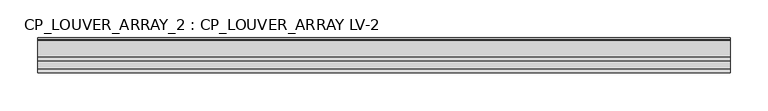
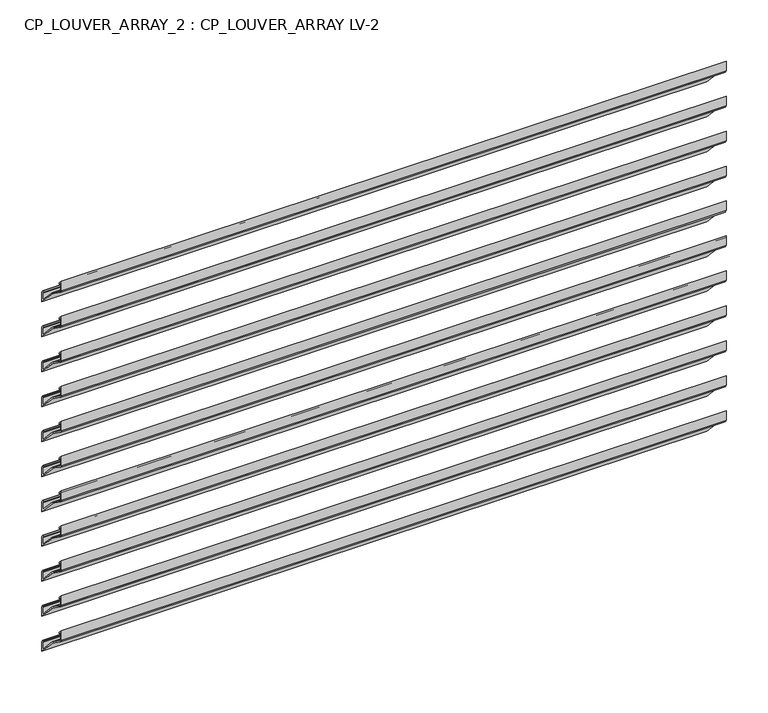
"""IFC4 building model written with IfcOpenShell, lengths in millimetres: plate geometry, CP_LOUVER_ARRAY_2 : CP_LOUVER_ARRAY LV-2."""

import ifcopenshell
import ifcopenshell.guid

model = None  # the IFC model being written
_history = None  # IfcOwnerHistory: only IFC2X3 demands one
_inside = {}  # id of a spatial element -> (the spatial element, [elements in it])
_under = {}  # id of a project, library or spatial element -> (it, [spatial elements below it])
_declared = {}  # id of a project -> (the project, [libraries it declares])
_typed = {}  # id of a type object -> (the type object, [elements of that type])
_made_of = {}  # id of a material, layer set ... -> (it, [elements and type objects made of it])


def new_model(schema):
    """Start an empty IFC model of exactly this schema.

    Asked for "IFC4X3", IfcOpenShell would pick the latest addendum, in which some entities
    have other attributes; the version numbers below select the first issue.
    IFC2X3 requires an IfcOwnerHistory on every rooted entity: one is made here for all.
    """
    global model, _history
    if schema == "IFC4X3":
        model = ifcopenshell.file(schema_version=(4, 3, 0, 0))
    else:
        model = ifcopenshell.file(schema=schema)
    _inside.clear()
    _under.clear()
    _declared.clear()
    _typed.clear()
    _made_of.clear()
    _history = None
    if model.schema == "IFC2X3":
        org = make("IfcOrganization", Name="unknown")
        user = make(
            "IfcPersonAndOrganization",
            ThePerson=make("IfcPerson", FamilyName="unknown"),
            TheOrganization=org,
        )
        app = make(
            "IfcApplication",
            ApplicationDeveloper=org,
            Version="unknown",
            ApplicationFullName="unknown",
            ApplicationIdentifier="unknown",
        )
        _history = make(
            "IfcOwnerHistory",
            OwningUser=user,
            OwningApplication=app,
            ChangeAction="ADDED",
            CreationDate=0,
        )
    return model


def make(cls, **values):
    """One entity of the class cls with the attributes given. An attribute that is None is left unset."""
    return model.create_entity(
        cls, **{name: value for name, value in values.items() if value is not None}
    )


def rooted(cls, **values):
    """An entity with a GlobalId (a new one), such as an element, a storey or a relation."""
    return make(cls, GlobalId=ifcopenshell.guid.new(), OwnerHistory=_history, **values)


def si_unit(unit_type, name, prefix=None):
    """IfcSIUnit, for example si_unit("LENGTHUNIT", "METRE", prefix="MILLI")."""
    return make("IfcSIUnit", UnitType=unit_type, Prefix=prefix, Name=name)


def assignment(units):
    """IfcUnitAssignment: the units of a project."""
    return None if units is None else make("IfcUnitAssignment", Units=units)


def point(xyz):
    """IfcCartesianPoint."""
    return None if xyz is None else make("IfcCartesianPoint", Coordinates=xyz)


def direction(xyz):
    """IfcDirection."""
    return None if xyz is None else make("IfcDirection", DirectionRatios=xyz)


def frame(location, z_axis=None, x_axis=None):
    """IfcAxis2Placement3D, a coordinate frame: its origin and axes. An axis left out is left unset."""
    return make(
        "IfcAxis2Placement3D",
        Location=point(location),
        Axis=direction(z_axis),
        RefDirection=direction(x_axis),
    )


def origin():
    """The frame at (0, 0, 0) with its axes left unset."""
    return frame((0.0, 0.0, 0.0))


def place(relative_to, where):
    """IfcLocalPlacement: puts the frame where relative to a parent placement (None: the world)."""
    return make(
        "IfcLocalPlacement", PlacementRelTo=relative_to, RelativePlacement=where
    )


def context(
    kind, dimensions, precision=None, world=None, true_north=None, identifier=None
):
    """IfcGeometricRepresentationContext, for example the 3D "Model" context."""
    return make(
        "IfcGeometricRepresentationContext",
        ContextIdentifier=identifier,
        ContextType=kind,
        CoordinateSpaceDimension=dimensions,
        Precision=precision,
        WorldCoordinateSystem=world,
        TrueNorth=true_north,
    )


def project(units=None, contexts=None):
    """IfcProject with its units and contexts."""
    return rooted(
        "IfcProject",
        Name="project",
        RepresentationContexts=contexts,
        UnitsInContext=assignment(units),
    )


def spatial(cls, under=None, at=None, **own):
    """A site, building, storey or space (cls), placed at a placement, below another one or the project."""
    s = rooted(cls, ObjectPlacement=at, **own)
    if under is not None:
        _under.setdefault(under.id(), (under, []))[1].append(s)
    return s


def faces_of(points, faces, orient=None, outer=None):
    """IfcFace entities. A face is a list of loops; a loop is a list of indices into points, from 0.

    orient and outer hold one flag for each loop. By default every Orientation is true, the
    first loop of a face is its IfcFaceOuterBound and the others are IfcFaceBound.
    """
    made = []
    for i, loops in enumerate(faces):
        bounds = []
        for j, loop in enumerate(loops):
            is_outer = j == 0 if outer is None else outer[i][j]
            bounds.append(
                make(
                    "IfcFaceOuterBound" if is_outer else "IfcFaceBound",
                    Bound=make("IfcPolyLoop", Polygon=[points[k] for k in loop]),
                    Orientation=True if orient is None else orient[i][j],
                )
            )
        made.append(make("IfcFace", Bounds=bounds))
    return made


def faceted_brep(points, faces, orient=None, outer=None, voids=None):
    """IfcFacetedBrep: a solid bounded by flat faces; with voids (closed shells), ...WithVoids."""
    shared = [point(p) for p in points]
    hull = make("IfcClosedShell", CfsFaces=faces_of(shared, faces, orient, outer))
    if voids is None:
        return make("IfcFacetedBrep", Outer=hull)
    return make(
        "IfcFacetedBrepWithVoids",
        Outer=hull,
        Voids=[
            make(cls, CfsFaces=faces_of(shared, fs, o, b)) for cls, fs, o, b in voids
        ],
    )


def shape(context_of_items, identifier, shape_type, items):
    """IfcShapeRepresentation: the items that make up one representation, for example the "Body"."""
    return make(
        "IfcShapeRepresentation",
        ContextOfItems=context_of_items,
        RepresentationIdentifier=identifier,
        RepresentationType=shape_type,
        Items=items,
    )


def source(mapping_origin, context_of_items, identifier, shape_type, items):
    """IfcRepresentationMap: a shape defined once, which mapped items show again and again."""
    return make(
        "IfcRepresentationMap",
        MappingOrigin=mapping_origin,
        MappedRepresentation=shape(context_of_items, identifier, shape_type, items),
    )


def transform(
    local_origin,
    x_axis=None,
    y_axis=None,
    z_axis=None,
    scale=None,
    scale2=None,
    scale3=None,
    uniform=True,
):
    """IfcCartesianTransformationOperator3D, or its non-uniform kind. x_axis, y_axis, z_axis: its Axis1, 2, 3."""
    if uniform:
        return make(
            "IfcCartesianTransformationOperator3D",
            Axis1=direction(x_axis),
            Axis2=direction(y_axis),
            LocalOrigin=point(local_origin),
            Scale=scale,
            Axis3=direction(z_axis),
        )
    return make(
        "IfcCartesianTransformationOperator3DnonUniform",
        Axis1=direction(x_axis),
        Axis2=direction(y_axis),
        LocalOrigin=point(local_origin),
        Scale=scale,
        Axis3=direction(z_axis),
        Scale2=scale2,
        Scale3=scale3,
    )


def mapped(mapping_source, mapping_target):
    """IfcMappedItem: shows the shape of a source again, moved by a transform."""
    return make(
        "IfcMappedItem", MappingSource=mapping_source, MappingTarget=mapping_target
    )


def made_of(thing, what):
    """Note that an element or type object is made of a material, layer set ...; save() writes the relation."""
    if what is not None:
        _made_of.setdefault(what.id(), (what, []))[1].append(thing)
    return thing


def element(
    cls,
    number,
    at=None,
    inside=None,
    cuts=None,
    type_object=None,
    material=None,
    context=None,
    identifier="Body",
    shape_type=None,
    held_by="IfcProductDefinitionShape",
    body=None,
    shapes=None,
    **own,
):
    """One element of the class cls, such as IfcWall. Its Tag is "e" and its number.

    at: its placement. inside: the storey or other place that contains it. cuts: it is an
    opening in that element (IfcRelVoidsElement). A single representation is given by context,
    identifier, shape_type and body (its items); several are given by shapes. held_by: the class
    of the entity that holds the representations. save() writes the other relations.
    """
    e = rooted(cls, Tag="e%d" % number, ObjectPlacement=at, **own)
    if body is not None:
        shapes = [shape(context, identifier, shape_type, body)]
    if shapes is not None:
        e.Representation = make(held_by, Representations=shapes)
    if inside is not None:
        _inside.setdefault(inside.id(), (inside, []))[1].append(e)
    if cuts is not None:
        rooted(
            "IfcRelVoidsElement", RelatingBuildingElement=cuts, RelatedOpeningElement=e
        )
    if type_object is not None:
        _typed.setdefault(type_object.id(), (type_object, []))[1].append(e)
    return made_of(e, material)


def aggregate(whole, parts):
    """IfcRelAggregates: a whole, such as a stair, and the parts it consists of."""
    return rooted("IfcRelAggregates", RelatingObject=whole, RelatedObjects=parts)


def save(model, path):
    """Write the relations noted so far, then the file.

    IfcRelAggregates (storeys below a building ...), IfcRelContainedInSpatialStructure (elements
    in a storey), IfcRelDefinesByType, IfcRelAssociatesMaterial and IfcRelDeclares: one each for
    every whole, place, type object, material and project.
    """
    for whole, parts in _under.values():
        aggregate(whole, parts)
    for where, things in _inside.values():
        rooted(
            "IfcRelContainedInSpatialStructure",
            RelatedElements=things,
            RelatingStructure=where,
        )
    for kind, things in _typed.values():
        rooted("IfcRelDefinesByType", RelatedObjects=things, RelatingType=kind)
    for what, things in _made_of.values():
        rooted("IfcRelAssociatesMaterial", RelatedObjects=things, RelatingMaterial=what)
    for by, libraries in _declared.values():
        rooted("IfcRelDeclares", RelatingContext=by, RelatedDefinitions=libraries)
    model.write(path)


def cp_louver_array_2_cp_louver_array_lv_2_bdcb4c62(model_context):
    return source(origin(), model_context, "Body", "Brep", [
        faceted_brep([(457.2, -96.3393096, 549.1190525), (457.2, -69.85, 520.7127457), (457.2, -69.85, 534.5844296), (457.2, -71.4632993, 537.7754075), (457.2, -73.025, 538.925084), (457.2, -73.025, 537.0326554), (457.2, -71.374, 534.5844296), (457.2, -71.374, 524.5816451), (457.2, -94.5749864, 549.4506311), (457.2, -99.9681804, 553.3028259), (457.2, -113.6250477, 562.9600681), (457.2, -114.6556, 564.9509873), (457.2, -114.6556, 574.9060452), (457.2, -111.4806, 571.5012746), (457.2, -111.4806, 573.735884), (457.2, -116.1796, 578.7749446), (457.2, -116.1796, 564.9509873), (457.2, -114.5049525, 561.7157436), (457.2, -100.8480853, 552.0585014), (-457.2, -96.3393096, 549.1190525), (-457.2, -100.8480853, 552.0585014), (-457.2, -114.5049525, 561.7157436), (-457.2, -116.1796, 564.9509873), (-457.2, -116.1796, 578.7749446), (-457.2, -111.4806, 573.735884), (-457.2, -111.4806, 571.5012746), (-457.2, -114.6556, 574.9060452), (-457.2, -114.6556, 564.9509873), (-457.2, -113.6250477, 562.9600681), (-457.2, -99.9681804, 553.3028259), (-457.2, -94.5749864, 549.4506311), (-457.2, -71.3542993, 524.6000536), (-457.2, -71.374, 534.5844296), (-457.2, -73.025, 537.0326554), (-457.2, -73.025, 538.925084), (-457.2, -71.4632993, 537.7754075), (-457.2, -69.85, 534.5844296), (-457.2, -69.85, 520.7127457)], [[[0, 1, 2, 3, 4, 5, 6, 7, 8, 9, 10, 11, 12, 13, 14, 15, 16, 17, 18]], [[19, 20, 21, 22, 23, 24, 25, 26, 27, 28, 29, 30, 31, 32, 33, 34, 35, 36, 37]], [[1, 0, 19, 37]], [[2, 1, 37, 36]], [[3, 2, 36, 35]], [[4, 3, 35, 34]], [[5, 4, 34, 33]], [[6, 5, 33, 32]], [[7, 6, 32, 31]], [[7, 31, 30, 8]], [[9, 8, 30, 29]], [[10, 9, 29, 28]], [[11, 10, 28, 27]], [[12, 11, 27, 26]], [[13, 12, 26, 25]], [[14, 13, 25, 24]], [[15, 14, 24, 23]], [[16, 15, 23, 22]], [[17, 16, 22, 21]], [[18, 17, 21, 20]], [[0, 18, 20, 19]]]),
        faceted_brep([(457.2, -96.3393096, 498.3177779), (457.2, -69.85, 469.9114711), (457.2, -69.85, 483.7831551), (457.2, -71.4632993, 486.9741329), (457.2, -73.025, 488.1238094), (457.2, -73.025, 486.2313808), (457.2, -71.374, 483.7831551), (457.2, -71.374, 473.7803705), (457.2, -94.5749864, 498.6493565), (457.2, -99.9681804, 502.5015513), (457.2, -113.6250477, 512.1587935), (457.2, -114.6556, 514.1497128), (457.2, -114.6556, 524.1047707), (457.2, -111.4806, 520.7), (457.2, -111.4806, 522.9346095), (457.2, -116.1796, 527.97367), (457.2, -116.1796, 514.1497128), (457.2, -114.5049525, 510.914469), (457.2, -100.8480853, 501.2572268), (-457.2, -96.3393096, 498.3177779), (-457.2, -100.8480853, 501.2572268), (-457.2, -114.5049525, 510.914469), (-457.2, -116.1796, 514.1497128), (-457.2, -116.1796, 527.97367), (-457.2, -111.4806, 522.9346095), (-457.2, -111.4806, 520.7), (-457.2, -114.6556, 524.1047707), (-457.2, -114.6556, 514.1497128), (-457.2, -113.6250477, 512.1587935), (-457.2, -99.9681804, 502.5015513), (-457.2, -94.5749864, 498.6493565), (-457.2, -71.3542993, 473.798779), (-457.2, -71.374, 483.7831551), (-457.2, -73.025, 486.2313808), (-457.2, -73.025, 488.1238094), (-457.2, -71.4632993, 486.9741329), (-457.2, -69.85, 483.7831551), (-457.2, -69.85, 469.9114711)], [[[0, 1, 2, 3, 4, 5, 6, 7, 8, 9, 10, 11, 12, 13, 14, 15, 16, 17, 18]], [[19, 20, 21, 22, 23, 24, 25, 26, 27, 28, 29, 30, 31, 32, 33, 34, 35, 36, 37]], [[1, 0, 19, 37]], [[2, 1, 37, 36]], [[3, 2, 36, 35]], [[4, 3, 35, 34]], [[5, 4, 34, 33]], [[6, 5, 33, 32]], [[7, 6, 32, 31]], [[7, 31, 30, 8]], [[9, 8, 30, 29]], [[10, 9, 29, 28]], [[11, 10, 28, 27]], [[12, 11, 27, 26]], [[13, 12, 26, 25]], [[14, 13, 25, 24]], [[15, 14, 24, 23]], [[16, 15, 23, 22]], [[17, 16, 22, 21]], [[18, 17, 21, 20]], [[0, 18, 20, 19]]]),
        faceted_brep([(457.2, -96.3393096, 447.5165033), (457.2, -69.85, 419.1101965), (457.2, -69.85, 432.9818805), (457.2, -71.4632993, 436.1728583), (457.2, -73.025, 437.3225348), (457.2, -73.025, 435.4301063), (457.2, -71.374, 432.9818805), (457.2, -71.374, 422.9790959), (457.2, -94.5749864, 447.8480819), (457.2, -99.9681804, 451.7002768), (457.2, -113.6250477, 461.357519), (457.2, -114.6556, 463.3484382), (457.2, -114.6556, 473.3034961), (457.2, -111.4806, 469.8987254), (457.2, -111.4806, 472.1333349), (457.2, -116.1796, 477.1723955), (457.2, -116.1796, 463.3484382), (457.2, -114.5049525, 460.1131944), (457.2, -100.8480853, 450.4559523), (-457.2, -96.3393096, 447.5165033), (-457.2, -100.8480853, 450.4559523), (-457.2, -114.5049525, 460.1131944), (-457.2, -116.1796, 463.3484382), (-457.2, -116.1796, 477.1723955), (-457.2, -111.4806, 472.1333349), (-457.2, -111.4806, 469.8987254), (-457.2, -114.6556, 473.3034961), (-457.2, -114.6556, 463.3484382), (-457.2, -113.6250477, 461.357519), (-457.2, -99.9681804, 451.7002768), (-457.2, -94.5749864, 447.8480819), (-457.2, -71.3542993, 422.9975045), (-457.2, -71.374, 432.9818805), (-457.2, -73.025, 435.4301063), (-457.2, -73.025, 437.3225348), (-457.2, -71.4632993, 436.1728583), (-457.2, -69.85, 432.9818805), (-457.2, -69.85, 419.1101965)], [[[0, 1, 2, 3, 4, 5, 6, 7, 8, 9, 10, 11, 12, 13, 14, 15, 16, 17, 18]], [[19, 20, 21, 22, 23, 24, 25, 26, 27, 28, 29, 30, 31, 32, 33, 34, 35, 36, 37]], [[1, 0, 19, 37]], [[2, 1, 37, 36]], [[3, 2, 36, 35]], [[4, 3, 35, 34]], [[5, 4, 34, 33]], [[6, 5, 33, 32]], [[7, 6, 32, 31]], [[7, 31, 30, 8]], [[9, 8, 30, 29]], [[10, 9, 29, 28]], [[11, 10, 28, 27]], [[12, 11, 27, 26]], [[13, 12, 26, 25]], [[14, 13, 25, 24]], [[15, 14, 24, 23]], [[16, 15, 23, 22]], [[17, 16, 22, 21]], [[18, 17, 21, 20]], [[0, 18, 20, 19]]]),
        faceted_brep([(457.2, -96.3393096, 396.7152288), (457.2, -69.85, 368.308922), (457.2, -69.85, 382.1806059), (457.2, -71.4632993, 385.3715838), (457.2, -73.025, 386.5212603), (457.2, -73.025, 384.6288317), (457.2, -71.374, 382.1806059), (457.2, -71.374, 372.1778214), (457.2, -94.5749864, 397.0468074), (457.2, -99.9681804, 400.8990022), (457.2, -113.6250477, 410.5562444), (457.2, -114.6556, 412.5471636), (457.2, -114.6556, 422.5022215), (457.2, -111.4806, 419.0974509), (457.2, -111.4806, 421.3320603), (457.2, -116.1796, 426.3711209), (457.2, -116.1796, 412.5471636), (457.2, -114.5049525, 409.3119199), (457.2, -100.8480853, 399.6546777), (-457.2, -96.3393096, 396.7152288), (-457.2, -100.8480853, 399.6546777), (-457.2, -114.5049525, 409.3119199), (-457.2, -116.1796, 412.5471636), (-457.2, -116.1796, 426.3711209), (-457.2, -111.4806, 421.3320603), (-457.2, -111.4806, 419.0974509), (-457.2, -114.6556, 422.5022215), (-457.2, -114.6556, 412.5471636), (-457.2, -113.6250477, 410.5562444), (-457.2, -99.9681804, 400.8990022), (-457.2, -94.5749864, 397.0468074), (-457.2, -71.3542993, 372.1962299), (-457.2, -71.374, 382.1806059), (-457.2, -73.025, 384.6288317), (-457.2, -73.025, 386.5212603), (-457.2, -71.4632993, 385.3715838), (-457.2, -69.85, 382.1806059), (-457.2, -69.85, 368.308922)], [[[0, 1, 2, 3, 4, 5, 6, 7, 8, 9, 10, 11, 12, 13, 14, 15, 16, 17, 18]], [[19, 20, 21, 22, 23, 24, 25, 26, 27, 28, 29, 30, 31, 32, 33, 34, 35, 36, 37]], [[1, 0, 19, 37]], [[2, 1, 37, 36]], [[3, 2, 36, 35]], [[4, 3, 35, 34]], [[5, 4, 34, 33]], [[6, 5, 33, 32]], [[7, 6, 32, 31]], [[7, 31, 30, 8]], [[9, 8, 30, 29]], [[10, 9, 29, 28]], [[11, 10, 28, 27]], [[12, 11, 27, 26]], [[13, 12, 26, 25]], [[14, 13, 25, 24]], [[15, 14, 24, 23]], [[16, 15, 23, 22]], [[17, 16, 22, 21]], [[18, 17, 21, 20]], [[0, 18, 20, 19]]]),
        faceted_brep([(457.2, -96.3393096, 345.9139542), (457.2, -69.85, 317.5076474), (457.2, -69.85, 331.3793314), (457.2, -71.4632993, 334.5703092), (457.2, -73.025, 335.7199857), (457.2, -73.025, 333.8275571), (457.2, -71.374, 331.3793314), (457.2, -71.374, 321.3765468), (457.2, -94.5749864, 346.2455328), (457.2, -99.9681804, 350.0977276), (457.2, -113.6250477, 359.7549698), (457.2, -114.6556, 361.7458891), (457.2, -114.6556, 371.7009469), (457.2, -111.4806, 368.2961763), (457.2, -111.4806, 370.5307858), (457.2, -116.1796, 375.5698463), (457.2, -116.1796, 361.7458891), (457.2, -114.5049525, 358.5106453), (457.2, -100.8480853, 348.8534031), (-457.2, -96.3393096, 345.9139542), (-457.2, -100.8480853, 348.8534031), (-457.2, -114.5049525, 358.5106453), (-457.2, -116.1796, 361.7458891), (-457.2, -116.1796, 375.5698463), (-457.2, -111.4806, 370.5307858), (-457.2, -111.4806, 368.2961763), (-457.2, -114.6556, 371.7009469), (-457.2, -114.6556, 361.7458891), (-457.2, -113.6250477, 359.7549698), (-457.2, -99.9681804, 350.0977276), (-457.2, -94.5749864, 346.2455328), (-457.2, -71.3542993, 321.3949553), (-457.2, -71.374, 331.3793314), (-457.2, -73.025, 333.8275571), (-457.2, -73.025, 335.7199857), (-457.2, -71.4632993, 334.5703092), (-457.2, -69.85, 331.3793314), (-457.2, -69.85, 317.5076474)], [[[0, 1, 2, 3, 4, 5, 6, 7, 8, 9, 10, 11, 12, 13, 14, 15, 16, 17, 18]], [[19, 20, 21, 22, 23, 24, 25, 26, 27, 28, 29, 30, 31, 32, 33, 34, 35, 36, 37]], [[1, 0, 19, 37]], [[2, 1, 37, 36]], [[3, 2, 36, 35]], [[4, 3, 35, 34]], [[5, 4, 34, 33]], [[6, 5, 33, 32]], [[7, 6, 32, 31]], [[7, 31, 30, 8]], [[9, 8, 30, 29]], [[10, 9, 29, 28]], [[11, 10, 28, 27]], [[12, 11, 27, 26]], [[13, 12, 26, 25]], [[14, 13, 25, 24]], [[15, 14, 24, 23]], [[16, 15, 23, 22]], [[17, 16, 22, 21]], [[18, 17, 21, 20]], [[0, 18, 20, 19]]]),
        faceted_brep([(457.2, -96.3393096, 295.1126796), (457.2, -69.85, 266.7063728), (457.2, -69.85, 280.5780568), (457.2, -71.4632993, 283.7690346), (457.2, -73.025, 284.9187111), (457.2, -73.025, 283.0262826), (457.2, -71.374, 280.5780568), (457.2, -71.374, 270.5752722), (457.2, -94.5749864, 295.4442582), (457.2, -99.9681804, 299.2964531), (457.2, -113.6250477, 308.9536953), (457.2, -114.6556, 310.9446145), (457.2, -114.6556, 320.8996724), (457.2, -111.4806, 317.4949017), (457.2, -111.4806, 319.7295112), (457.2, -116.1796, 324.7685718), (457.2, -116.1796, 310.9446145), (457.2, -114.5049525, 307.7093707), (457.2, -100.8480853, 298.0521286), (-457.2, -96.3393096, 295.1126796), (-457.2, -100.8480853, 298.0521286), (-457.2, -114.5049525, 307.7093707), (-457.2, -116.1796, 310.9446145), (-457.2, -116.1796, 324.7685718), (-457.2, -111.4806, 319.7295112), (-457.2, -111.4806, 317.4949017), (-457.2, -114.6556, 320.8996724), (-457.2, -114.6556, 310.9446145), (-457.2, -113.6250477, 308.9536953), (-457.2, -99.9681804, 299.2964531), (-457.2, -94.5749864, 295.4442582), (-457.2, -71.3542993, 270.5936808), (-457.2, -71.374, 280.5780568), (-457.2, -73.025, 283.0262826), (-457.2, -73.025, 284.9187111), (-457.2, -71.4632993, 283.7690346), (-457.2, -69.85, 280.5780568), (-457.2, -69.85, 266.7063728)], [[[0, 1, 2, 3, 4, 5, 6, 7, 8, 9, 10, 11, 12, 13, 14, 15, 16, 17, 18]], [[19, 20, 21, 22, 23, 24, 25, 26, 27, 28, 29, 30, 31, 32, 33, 34, 35, 36, 37]], [[1, 0, 19, 37]], [[2, 1, 37, 36]], [[3, 2, 36, 35]], [[4, 3, 35, 34]], [[5, 4, 34, 33]], [[6, 5, 33, 32]], [[7, 6, 32, 31]], [[7, 31, 30, 8]], [[9, 8, 30, 29]], [[10, 9, 29, 28]], [[11, 10, 28, 27]], [[12, 11, 27, 26]], [[13, 12, 26, 25]], [[14, 13, 25, 24]], [[15, 14, 24, 23]], [[16, 15, 23, 22]], [[17, 16, 22, 21]], [[18, 17, 21, 20]], [[0, 18, 20, 19]]]),
        faceted_brep([(457.2, -96.3393096, 244.3114051), (457.2, -69.85, 215.9050983), (457.2, -69.85, 229.7767822), (457.2, -71.4632993, 232.9677601), (457.2, -73.025, 234.1174365), (457.2, -73.025, 232.225008), (457.2, -71.374, 229.7767822), (457.2, -71.374, 219.7739977), (457.2, -94.5749864, 244.6429837), (457.2, -99.9681804, 248.4951785), (457.2, -113.6250477, 258.1524207), (457.2, -114.6556, 260.1433399), (457.2, -114.6556, 270.0983978), (457.2, -111.4806, 266.6936272), (457.2, -111.4806, 268.9282366), (457.2, -116.1796, 273.9672972), (457.2, -116.1796, 260.1433399), (457.2, -114.5049525, 256.9080962), (457.2, -100.8480853, 247.250854), (-457.2, -96.3393096, 244.3114051), (-457.2, -100.8480853, 247.250854), (-457.2, -114.5049525, 256.9080962), (-457.2, -116.1796, 260.1433399), (-457.2, -116.1796, 273.9672972), (-457.2, -111.4806, 268.9282366), (-457.2, -111.4806, 266.6936272), (-457.2, -114.6556, 270.0983978), (-457.2, -114.6556, 260.1433399), (-457.2, -113.6250477, 258.1524207), (-457.2, -99.9681804, 248.4951785), (-457.2, -94.5749864, 244.6429837), (-457.2, -71.3542993, 219.7924062), (-457.2, -71.374, 229.7767822), (-457.2, -73.025, 232.225008), (-457.2, -73.025, 234.1174365), (-457.2, -71.4632993, 232.9677601), (-457.2, -69.85, 229.7767822), (-457.2, -69.85, 215.9050983)], [[[0, 1, 2, 3, 4, 5, 6, 7, 8, 9, 10, 11, 12, 13, 14, 15, 16, 17, 18]], [[19, 20, 21, 22, 23, 24, 25, 26, 27, 28, 29, 30, 31, 32, 33, 34, 35, 36, 37]], [[1, 0, 19, 37]], [[2, 1, 37, 36]], [[3, 2, 36, 35]], [[4, 3, 35, 34]], [[5, 4, 34, 33]], [[6, 5, 33, 32]], [[7, 6, 32, 31]], [[7, 31, 30, 8]], [[9, 8, 30, 29]], [[10, 9, 29, 28]], [[11, 10, 28, 27]], [[12, 11, 27, 26]], [[13, 12, 26, 25]], [[14, 13, 25, 24]], [[15, 14, 24, 23]], [[16, 15, 23, 22]], [[17, 16, 22, 21]], [[18, 17, 21, 20]], [[0, 18, 20, 19]]]),
        faceted_brep([(457.2, -96.3393096, 193.5101305), (457.2, -69.85, 165.1038237), (457.2, -69.85, 178.9755076), (457.2, -71.4632993, 182.1664855), (457.2, -73.025, 183.316162), (457.2, -73.025, 181.4237334), (457.2, -71.374, 178.9755076), (457.2, -71.374, 168.9727231), (457.2, -94.5749864, 193.8417091), (457.2, -99.9681804, 197.6939039), (457.2, -113.6250477, 207.3511461), (457.2, -114.6556, 209.3420654), (457.2, -114.6556, 219.2971232), (457.2, -111.4806, 215.8923526), (457.2, -111.4806, 218.1269621), (457.2, -116.1796, 223.1660226), (457.2, -116.1796, 209.3420654), (457.2, -114.5049525, 206.1068216), (457.2, -100.8480853, 196.4495794), (-457.2, -96.3393096, 193.5101305), (-457.2, -100.8480853, 196.4495794), (-457.2, -114.5049525, 206.1068216), (-457.2, -116.1796, 209.3420654), (-457.2, -116.1796, 223.1660226), (-457.2, -111.4806, 218.1269621), (-457.2, -111.4806, 215.8923526), (-457.2, -114.6556, 219.2971232), (-457.2, -114.6556, 209.3420654), (-457.2, -113.6250477, 207.3511461), (-457.2, -99.9681804, 197.6939039), (-457.2, -94.5749864, 193.8417091), (-457.2, -71.3542993, 168.9911316), (-457.2, -71.374, 178.9755076), (-457.2, -73.025, 181.4237334), (-457.2, -73.025, 183.316162), (-457.2, -71.4632993, 182.1664855), (-457.2, -69.85, 178.9755076), (-457.2, -69.85, 165.1038237)], [[[0, 1, 2, 3, 4, 5, 6, 7, 8, 9, 10, 11, 12, 13, 14, 15, 16, 17, 18]], [[19, 20, 21, 22, 23, 24, 25, 26, 27, 28, 29, 30, 31, 32, 33, 34, 35, 36, 37]], [[1, 0, 19, 37]], [[2, 1, 37, 36]], [[3, 2, 36, 35]], [[4, 3, 35, 34]], [[5, 4, 34, 33]], [[6, 5, 33, 32]], [[7, 6, 32, 31]], [[7, 31, 30, 8]], [[9, 8, 30, 29]], [[10, 9, 29, 28]], [[11, 10, 28, 27]], [[12, 11, 27, 26]], [[13, 12, 26, 25]], [[14, 13, 25, 24]], [[15, 14, 24, 23]], [[16, 15, 23, 22]], [[17, 16, 22, 21]], [[18, 17, 21, 20]], [[0, 18, 20, 19]]]),
        faceted_brep([(457.2, -96.3393096, 142.7088559), (457.2, -69.85, 114.3025491), (457.2, -69.85, 128.1742331), (457.2, -71.4632993, 131.3652109), (457.2, -73.025, 132.5148874), (457.2, -73.025, 130.6224589), (457.2, -71.374, 128.1742331), (457.2, -71.374, 118.1714485), (457.2, -94.5749864, 143.0404345), (457.2, -99.9681804, 146.8926294), (457.2, -113.6250477, 156.5498716), (457.2, -114.6556, 158.5407908), (457.2, -114.6556, 168.4958487), (457.2, -111.4806, 165.091078), (457.2, -111.4806, 167.3256875), (457.2, -116.1796, 172.3647481), (457.2, -116.1796, 158.5407908), (457.2, -114.5049525, 155.305547), (457.2, -100.8480853, 145.6483048), (-457.2, -96.3393096, 142.7088559), (-457.2, -100.8480853, 145.6483048), (-457.2, -114.5049525, 155.305547), (-457.2, -116.1796, 158.5407908), (-457.2, -116.1796, 172.3647481), (-457.2, -111.4806, 167.3256875), (-457.2, -111.4806, 165.091078), (-457.2, -114.6556, 168.4958487), (-457.2, -114.6556, 158.5407908), (-457.2, -113.6250477, 156.5498716), (-457.2, -99.9681804, 146.8926294), (-457.2, -94.5749864, 143.0404345), (-457.2, -71.3542993, 118.1898571), (-457.2, -71.374, 128.1742331), (-457.2, -73.025, 130.6224589), (-457.2, -73.025, 132.5148874), (-457.2, -71.4632993, 131.3652109), (-457.2, -69.85, 128.1742331), (-457.2, -69.85, 114.3025491)], [[[0, 1, 2, 3, 4, 5, 6, 7, 8, 9, 10, 11, 12, 13, 14, 15, 16, 17, 18]], [[19, 20, 21, 22, 23, 24, 25, 26, 27, 28, 29, 30, 31, 32, 33, 34, 35, 36, 37]], [[1, 0, 19, 37]], [[2, 1, 37, 36]], [[3, 2, 36, 35]], [[4, 3, 35, 34]], [[5, 4, 34, 33]], [[6, 5, 33, 32]], [[7, 6, 32, 31]], [[7, 31, 30, 8]], [[9, 8, 30, 29]], [[10, 9, 29, 28]], [[11, 10, 28, 27]], [[12, 11, 27, 26]], [[13, 12, 26, 25]], [[14, 13, 25, 24]], [[15, 14, 24, 23]], [[16, 15, 23, 22]], [[17, 16, 22, 21]], [[18, 17, 21, 20]], [[0, 18, 20, 19]]]),
        faceted_brep([(457.2, -96.3393096, 91.9075814), (457.2, -69.85, 63.5012746), (457.2, -69.85, 77.3729585), (457.2, -71.4632993, 80.5639364), (457.2, -73.025, 81.7136128), (457.2, -73.025, 79.8211843), (457.2, -71.374, 77.3729585), (457.2, -71.374, 67.370174), (457.2, -94.5749864, 92.23916), (457.2, -99.9681804, 96.0913548), (457.2, -113.6250477, 105.748597), (457.2, -114.6556, 107.7395162), (457.2, -114.6556, 117.6945741), (457.2, -111.4806, 114.2898035), (457.2, -111.4806, 116.5244129), (457.2, -116.1796, 121.5634735), (457.2, -116.1796, 107.7395162), (457.2, -114.5049525, 104.5042725), (457.2, -100.8480853, 94.8470303), (-457.2, -96.3393096, 91.9075814), (-457.2, -100.8480853, 94.8470303), (-457.2, -114.5049525, 104.5042725), (-457.2, -116.1796, 107.7395162), (-457.2, -116.1796, 121.5634735), (-457.2, -111.4806, 116.5244129), (-457.2, -111.4806, 114.2898035), (-457.2, -114.6556, 117.6945741), (-457.2, -114.6556, 107.7395162), (-457.2, -113.6250477, 105.748597), (-457.2, -99.9681804, 96.0913548), (-457.2, -94.5749864, 92.23916), (-457.2, -71.3542993, 67.3885825), (-457.2, -71.374, 77.3729585), (-457.2, -73.025, 79.8211843), (-457.2, -73.025, 81.7136128), (-457.2, -71.4632993, 80.5639364), (-457.2, -69.85, 77.3729585), (-457.2, -69.85, 63.5012746)], [[[0, 1, 2, 3, 4, 5, 6, 7, 8, 9, 10, 11, 12, 13, 14, 15, 16, 17, 18]], [[19, 20, 21, 22, 23, 24, 25, 26, 27, 28, 29, 30, 31, 32, 33, 34, 35, 36, 37]], [[1, 0, 19, 37]], [[2, 1, 37, 36]], [[3, 2, 36, 35]], [[4, 3, 35, 34]], [[5, 4, 34, 33]], [[6, 5, 33, 32]], [[7, 6, 32, 31]], [[7, 31, 30, 8]], [[9, 8, 30, 29]], [[10, 9, 29, 28]], [[11, 10, 28, 27]], [[12, 11, 27, 26]], [[13, 12, 26, 25]], [[14, 13, 25, 24]], [[15, 14, 24, 23]], [[16, 15, 23, 22]], [[17, 16, 22, 21]], [[18, 17, 21, 20]], [[0, 18, 20, 19]]]),
        faceted_brep([(457.2, -96.3393096, 41.1063068), (457.2, -69.85, 12.7), (457.2, -69.85, 26.5716839), (457.2, -71.4632993, 29.7626618), (457.2, -73.025, 30.9123383), (457.2, -73.025, 29.0199097), (457.2, -71.374, 26.5716839), (457.2, -71.374, 16.5688994), (457.2, -94.5749864, 41.4378854), (457.2, -99.9681804, 45.2900802), (457.2, -113.6250477, 54.9473224), (457.2, -114.6556, 56.9382417), (457.2, -114.6556, 66.8932995), (457.2, -111.4806, 63.4885289), (457.2, -111.4806, 65.7231384), (457.2, -116.1796, 70.7621989), (457.2, -116.1796, 56.9382417), (457.2, -114.5049525, 53.7029979), (457.2, -100.8480853, 44.0457557), (-457.2, -96.3393096, 41.1063068), (-457.2, -100.8480853, 44.0457557), (-457.2, -114.5049525, 53.7029979), (-457.2, -116.1796, 56.9382417), (-457.2, -116.1796, 70.7621989), (-457.2, -111.4806, 65.7231384), (-457.2, -111.4806, 63.4885289), (-457.2, -114.6556, 66.8932995), (-457.2, -114.6556, 56.9382417), (-457.2, -113.6250477, 54.9473224), (-457.2, -99.9681804, 45.2900802), (-457.2, -94.5749864, 41.4378854), (-457.2, -71.3542993, 16.5873079), (-457.2, -71.374, 26.5716839), (-457.2, -73.025, 29.0199097), (-457.2, -73.025, 30.9123383), (-457.2, -71.4632993, 29.7626618), (-457.2, -69.85, 26.5716839), (-457.2, -69.85, 12.7)], [[[0, 1, 2, 3, 4, 5, 6, 7, 8, 9, 10, 11, 12, 13, 14, 15, 16, 17, 18]], [[19, 20, 21, 22, 23, 24, 25, 26, 27, 28, 29, 30, 31, 32, 33, 34, 35, 36, 37]], [[1, 0, 19, 37]], [[2, 1, 37, 36]], [[3, 2, 36, 35]], [[4, 3, 35, 34]], [[5, 4, 34, 33]], [[6, 5, 33, 32]], [[7, 6, 32, 31]], [[7, 31, 30, 8]], [[9, 8, 30, 29]], [[10, 9, 29, 28]], [[11, 10, 28, 27]], [[12, 11, 27, 26]], [[13, 12, 26, 25]], [[14, 13, 25, 24]], [[15, 14, 24, 23]], [[16, 15, 23, 22]], [[17, 16, 22, 21]], [[18, 17, 21, 20]], [[0, 18, 20, 19]]]),
    ])


if __name__ == "__main__":
    model = new_model("IFC4")
    model_context = context("Model", 3, world=origin())
    ifc_project = project(units=[si_unit("LENGTHUNIT", "METRE", prefix="MILLI")], contexts=[model_context])
    site = spatial("IfcSite", under=ifc_project)
    building = spatial("IfcBuilding", under=site)
    placement = place(None, origin())
    cp_louver_array_2_cp_louver_array_lv_2_shape = cp_louver_array_2_cp_louver_array_lv_2_bdcb4c62(model_context)
    element("IfcPlate", 1, ObjectType="CP_LOUVER_ARRAY_2 : CP_LOUVER_ARRAY LV-2", at=placement, inside=building, context=model_context, shape_type="MappedRepresentation", body=[
        mapped(cp_louver_array_2_cp_louver_array_lv_2_shape, transform((0.0, 0.0, 0.0), x_axis=(1.0, 0.0, 0.0), y_axis=(0.0, 1.0, 0.0), z_axis=(0.0, 0.0, 1.0))),
    ])
    save(model, "model.ifc")
